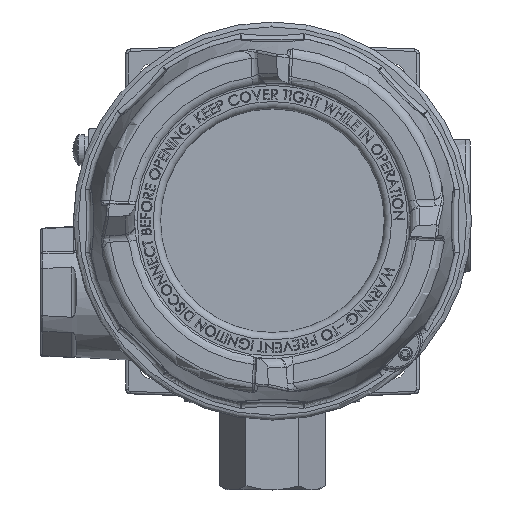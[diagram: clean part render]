
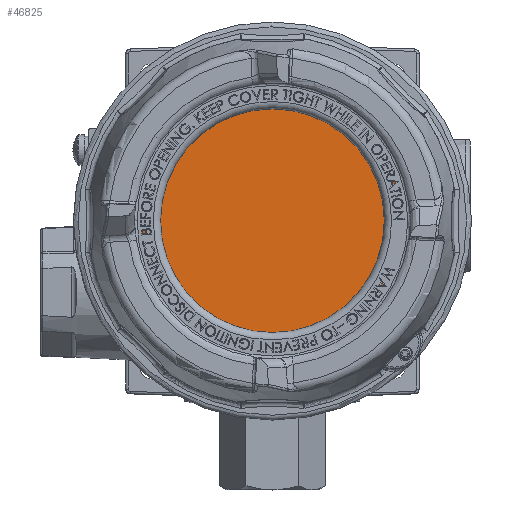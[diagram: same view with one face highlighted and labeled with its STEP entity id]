
A CAD part, top view. The second image highlights one B-rep face of the part: STEP entity #46825.
In plain terms, the highlighted planar face has unit normal (0, 0, 1).
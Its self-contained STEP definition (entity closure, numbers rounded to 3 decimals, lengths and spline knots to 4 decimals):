
#860 = CARTESIAN_POINT ( 'NONE',  ( 0., 0., 3.783 ) ) ;
#2439 = DIRECTION ( 'NONE',  ( 0., 0., -1. ) ) ;
#4630 = EDGE_CURVE ( 'NONE', #41819, #41819, #58010, .T. ) ;
#7526 = DIRECTION ( 'NONE',  ( 1., 0., 0. ) ) ;
#9035 = AXIS2_PLACEMENT_3D ( 'NONE', #860, #12277, #7526 ) ;
#12277 = DIRECTION ( 'NONE',  ( 0., 0., 1. ) ) ;
#14261 = PLANE ( 'NONE',  #65667 ) ;
#24940 = EDGE_LOOP ( 'NONE', ( #53208 ) ) ;
#38245 = CARTESIAN_POINT ( 'NONE',  ( 0., 0., 3.783 ) ) ;
#41819 = VERTEX_POINT ( 'NONE', #51212 ) ;
#43772 = FACE_OUTER_BOUND ( 'NONE', #24940, .T. ) ;
#46825 = ADVANCED_FACE ( 'NONE', ( #43772 ), #14261, .F. ) ;
#51212 = CARTESIAN_POINT ( 'NONE',  ( 1.775, 0., 3.783 ) ) ;
#53208 = ORIENTED_EDGE ( 'NONE', *, *, #4630, .T. ) ;
#58010 = CIRCLE ( 'NONE', #9035, 1.775 ) ;
#62612 = DIRECTION ( 'NONE',  ( 1., 0., 0. ) ) ;
#65667 = AXIS2_PLACEMENT_3D ( 'NONE', #38245, #2439, #62612 ) ;
